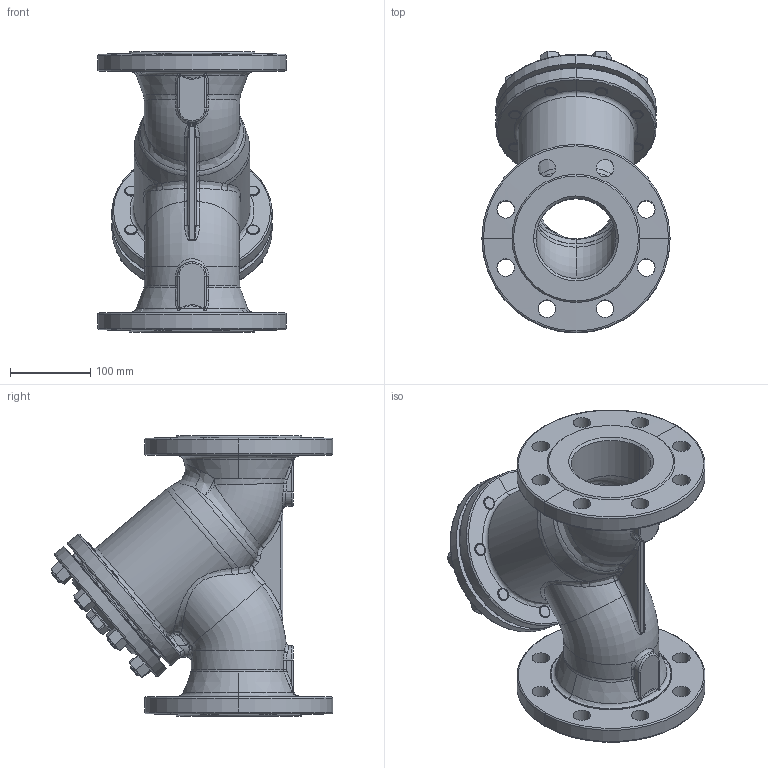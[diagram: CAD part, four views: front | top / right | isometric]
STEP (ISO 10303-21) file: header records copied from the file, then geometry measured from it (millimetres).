
FILE_DESCRIPTION (( 'STEP AP203' ), '1' );
FILE_NAME ('821_DN100 PN40.STEP', '2010-01-13T07:41:19', ( 'wtarnaws' ), ( '' ), 'SwSTEP 2.0', 'SolidWorks 2010', '' );
FILE_SCHEMA (( 'CONFIG_CONTROL_DESIGN' ));
Length unit declared in the file: millimetre
Products named in the file (6): 821_DN100 PN40; Kadlub 100 -z; Pokrywa 100; KOREK 1 1-2_Default; Nakrêtka szeœciok¹tna PN-86_M-82144_M16; M16 x 40_PreviewCfg
Assembly tree (20 placements, depth 2):
  821_DN100 PN40
    M16 x 40_PreviewCfg  x8
    Nakrêtka szeœciok¹tna PN-86_M-82144_M16  x9
    KOREK 1 1-2_Default
    Pokrywa 100
    Kadlub 100 -z
Bounding box: 235 x 351.81 x 350 mm (x, y, z)
Volume: 4092862.8 mm3; surface area: 651031 mm2
Topology: 20 solids, 20 shells, 801 faces, 1783 edges, 1039 vertices
Faces by surface type: cylinder 255, cone 200, plane 140, torus 121, bspline 79, sphere 6
Entity records: 42702 total; most frequent: CARTESIAN_POINT 31603, ORIENTED_EDGE 2110, DIRECTION 2089, EDGE_CURVE 1055, AXIS2_PLACEMENT_3D 908, VERTEX_POINT 623, EDGE_LOOP 524, CIRCLE 517
